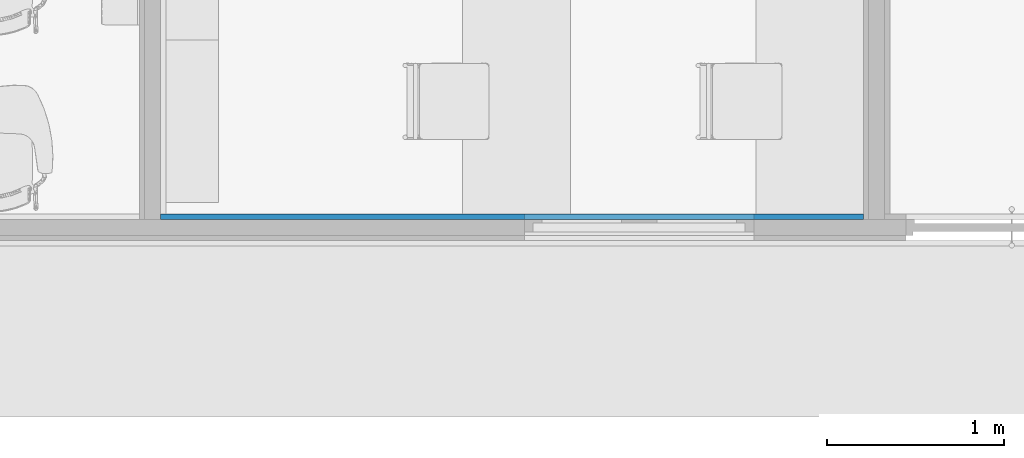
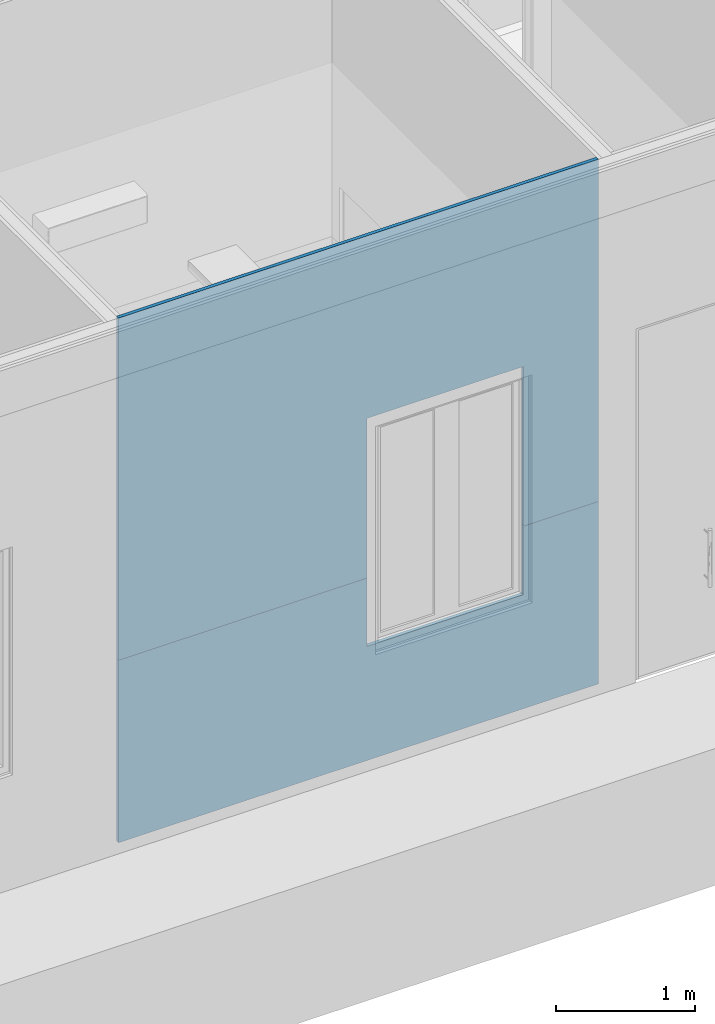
# One storey, part 4 of 155: 2 walls, 18 openings.
"""IFC2X3 building model written with IfcOpenShell, lengths in metres."""

from ifc_helpers import new_model, entity, si_unit, converted_unit, derived_unit, direction, frame, frame_2d, origin, place, context, subcontext, project, spatial, rectangle, extrude, material, layer, layer_set, layer_usage, type_object, element, save


model = new_model("IFC2X3")

# Units and contexts
model_context = context("Model", 3, precision=1e-05, world=origin(), true_north=direction((6.12303176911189e-17, 1.0)))
body_context = subcontext(model_context, "Body", "Model", "MODEL_VIEW")
ifc_project = project(units=[si_unit("LENGTHUNIT", "METRE"), si_unit("AREAUNIT", "SQUARE_METRE"), si_unit("VOLUMEUNIT", "CUBIC_METRE"), converted_unit("PLANEANGLEUNIT", "DEGREE", entity("IfcRatioMeasure", 0.0174532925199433), si_unit("PLANEANGLEUNIT", "RADIAN"), dimensions=[0, 0, 0, 0, 0, 0, 0]), si_unit("MASSUNIT", "GRAM", prefix="KILO"), derived_unit("MASSDENSITYUNIT", [(si_unit("MASSUNIT", "GRAM", prefix="KILO"), 1), (si_unit("LENGTHUNIT", "METRE"), -3)]), si_unit("TIMEUNIT", "SECOND"), si_unit("FREQUENCYUNIT", "HERTZ"), si_unit("THERMODYNAMICTEMPERATUREUNIT", "DEGREE_CELSIUS"), derived_unit("THERMALTRANSMITTANCEUNIT", [(si_unit("MASSUNIT", "GRAM", prefix="KILO"), 1), (si_unit("THERMODYNAMICTEMPERATUREUNIT", "KELVIN"), -1), (si_unit("TIMEUNIT", "SECOND"), -3)]), derived_unit("VOLUMETRICFLOWRATEUNIT", [(si_unit("LENGTHUNIT", "METRE"), 3), (si_unit("TIMEUNIT", "SECOND"), -1)]), si_unit("ELECTRICCURRENTUNIT", "AMPERE"), si_unit("ELECTRICVOLTAGEUNIT", "VOLT"), si_unit("POWERUNIT", "WATT"), si_unit("FORCEUNIT", "NEWTON", prefix="KILO"), si_unit("ILLUMINANCEUNIT", "LUX"), si_unit("LUMINOUSFLUXUNIT", "LUMEN"), si_unit("LUMINOUSINTENSITYUNIT", "CANDELA"), derived_unit("USERDEFINED", [(si_unit("MASSUNIT", "GRAM", prefix="KILO"), -1), (si_unit("LENGTHUNIT", "METRE"), -2), (si_unit("TIMEUNIT", "SECOND"), 3), (si_unit("LUMINOUSFLUXUNIT", "LUMEN"), 1)]), derived_unit("LINEARVELOCITYUNIT", [(si_unit("LENGTHUNIT", "METRE"), 1), (si_unit("TIMEUNIT", "SECOND"), -1)]), si_unit("PRESSUREUNIT", "PASCAL"), derived_unit("USERDEFINED", [(si_unit("LENGTHUNIT", "METRE"), -2), (si_unit("MASSUNIT", "GRAM", prefix="KILO"), 1), (si_unit("TIMEUNIT", "SECOND"), -2)])], contexts=[model_context])

# Site, building, storey
site_placement = place(None, frame((26.9889013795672, -17.5624287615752, 0.0)))
site = spatial("IfcSite", under=ifc_project, at=site_placement, Name="Default", CompositionType="ELEMENT")
building_placement = place(site_placement, origin())
building = spatial("IfcBuilding", under=site, at=building_placement, Name="C. C. L. Monsenhor Antônio Sampaio", CompositionType="ELEMENT")
storey_placement = place(building_placement, frame((0.0, 0.0, 1.19999999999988)))
storey = spatial("IfcBuildingStorey", under=building, at=storey_placement, Name="Nível 1.2", CompositionType="ELEMENT", Elevation=1.19999999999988)

# Wall, openings
ifc_material_1 = material(Name=".CERÂMICA 10x10 BRANCA")
ifc_layer_1 = layer(ifc_material_1, 0.0035)
ifc_material_2 = material(Name="Argamassa Colante")
ifc_layer_2 = layer(ifc_material_2, 0.02)
ifc_material_3 = material(Name="4")
ifc_layer_3 = layer(ifc_material_3, 0.0015)
ifc_material_4 = material(Name="3")
ifc_layer_4 = layer(ifc_material_4, 0.005)
ifc_layer_set_1 = layer_set([ifc_layer_1, ifc_layer_2, ifc_layer_3, ifc_layer_4], Name="Parede básica:ECeramica branca 10x10cm")
ifc_layer_usage_1 = layer_usage(ifc_layer_set_1, "AXIS2", "POSITIVE", -0.015)
wall_type_1 = type_object("IfcWallType", Name="Parede básica:ECeramica branca 10x10cm", PredefinedType="STANDARD", material=ifc_layer_set_1)
wall_1_placement = place(storey_placement, frame((-2.19055229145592, -39.3180663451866, 0.0), z_axis=(0.0, 0.0, 1.0), x_axis=(-1.0, 0.0, 0.0)))
wall_1 = element("IfcWallStandardCase", 1, at=wall_1_placement, inside=storey, type_object=wall_type_1, material=ifc_layer_usage_1, Name="Parede básica:ECeramica branca 10x10cm", ObjectType="Parede básica:ECeramica branca 10x10cm", context=body_context, shape_type="SweptSolid", body=[
    extrude(rectangle(XDim=3.97999999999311, YDim=0.0299999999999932, at=frame_2d((1.98999999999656, 3.20923843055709e-17), x_axis=(-1.0, 0.0))), origin(), (0.0, 0.0, 1.0), 1.6),
])
opening_1_placement = place(wall_1_placement, origin())
element("IfcOpeningElement", 2, at=opening_1_placement, cuts=wall_1, Name="Parede básica:ECeramica branca 10x10cm", ObjectType="Opening", context=body_context, shape_type="SweptSolid", body=[
    extrude(rectangle(XDim=2.0, YDim=1.30000000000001, at=frame_2d((1.66533453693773e-16, 0.0), x_axis=(1.0, 0.0))), frame((1.27, -1.41899999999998, 2.0), z_axis=(0.0, 1.0, 0.0), x_axis=(0.0, 0.0, 1.0)), (0.0, 0.0, 1.0), 3.048),
])
opening_2_placement = place(wall_1_placement, origin())
element("IfcOpeningElement", 3, at=opening_2_placement, cuts=wall_1, Name="Parede básica:ECeramica branca 10x10cm", ObjectType="Opening", context=body_context, shape_type="SweptSolid", body=[
    extrude(rectangle(XDim=3.09999999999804, YDim=1.4, at=frame_2d((0.0, -3.33066907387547e-16), x_axis=(0.0, 1.0))), frame((-0.939999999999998, -1.50899999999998, 1.54999999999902), z_axis=(0.0, 1.0, 0.0), x_axis=(-1.0, 0.0, 0.0)), (0.0, 0.0, 1.0), 3.04799999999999),
])
opening_3_placement = place(wall_1_placement, origin())
element("IfcOpeningElement", 4, at=opening_3_placement, cuts=wall_1, Name="Parede básica:ECeramica branca 10x10cm", ObjectType="Opening", context=body_context, shape_type="SweptSolid", body=[
    extrude(rectangle(XDim=2.0, YDim=1.30000000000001, at=frame_2d((0.0, -3.88578058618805e-16), x_axis=(0.0, 1.0))), frame((10.3499999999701, -1.41899999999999, 2.0), z_axis=(0.0, 1.0, 0.0), x_axis=(-1.0, 0.0, 0.0)), (0.0, 0.0, 1.0), 3.048),
])
opening_4_placement = place(wall_1_placement, origin())
element("IfcOpeningElement", 5, at=opening_4_placement, cuts=wall_1, Name="Parede básica:ECeramica branca 10x10cm", ObjectType="Opening", context=body_context, shape_type="SweptSolid", body=[
    extrude(rectangle(XDim=2.0, YDim=1.30000000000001, at=frame_2d((-4.9960036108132e-16, -3.88578058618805e-16), x_axis=(0.0, 1.0))), frame((7.96999999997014, -1.41899999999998, 2.0), z_axis=(0.0, 1.0, 0.0), x_axis=(-1.0, 0.0, 0.0)), (0.0, 0.0, 1.0), 3.048),
])
opening_5_placement = place(wall_1_placement, origin())
element("IfcOpeningElement", 6, at=opening_5_placement, cuts=wall_1, Name="Parede básica:ECeramica branca 10x10cm", ObjectType="Opening", context=body_context, shape_type="SweptSolid", body=[
    extrude(rectangle(XDim=2.0, YDim=1.30000000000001, at=frame_2d((0.0, -3.88578058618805e-16), x_axis=(0.0, 1.0))), frame((5.57999999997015, -1.41899999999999, 2.0), z_axis=(0.0, 1.0, 0.0), x_axis=(-1.0, 0.0, 0.0)), (0.0, 0.0, 1.0), 3.048),
])
opening_6_placement = place(wall_1_placement, origin())
element("IfcOpeningElement", 7, at=opening_6_placement, cuts=wall_1, Name="Parede básica:ECeramica branca 10x10cm", ObjectType="Opening", context=body_context, shape_type="SweptSolid", body=[
    extrude(rectangle(XDim=2.0, YDim=1.30000000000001, at=frame_2d((1.66533453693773e-16, -1.11022302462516e-16), x_axis=(1.0, 0.0))), frame((-3.2700000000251, -1.50899999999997, 2.0), z_axis=(0.0, 1.0, 0.0), x_axis=(0.0, 0.0, 1.0)), (0.0, 0.0, 1.0), 3.04800000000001),
])
opening_7_placement = place(wall_1_placement, origin())
element("IfcOpeningElement", 8, at=opening_7_placement, cuts=wall_1, Name="Parede básica:ECeramica branca 10x10cm", ObjectType="Opening", context=body_context, shape_type="SweptSolid", body=[
    extrude(rectangle(XDim=2.0, YDim=1.30000000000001, at=frame_2d((1.66533453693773e-16, -2.22044604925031e-16), x_axis=(1.0, 0.0))), frame((-7.52000000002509, -1.50899999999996, 2.0), z_axis=(0.0, 1.0, 0.0), x_axis=(0.0, 0.0, 1.0)), (0.0, 0.0, 1.0), 3.04800000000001),
])
opening_8_placement = place(wall_1_placement, origin())
element("IfcOpeningElement", 9, at=opening_8_placement, cuts=wall_1, Name="Parede básica:ECeramica branca 10x10cm", ObjectType="Opening", context=body_context, shape_type="SweptSolid", body=[
    extrude(rectangle(XDim=2.0, YDim=1.30000000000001, at=frame_2d((1.66533453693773e-16, 0.0), x_axis=(1.0, 0.0))), frame((-9.90000000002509, -1.50899999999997, 2.0), z_axis=(0.0, 1.0, 0.0), x_axis=(0.0, 0.0, 1.0)), (0.0, 0.0, 1.0), 3.048),
])
opening_9_placement = place(wall_1_placement, origin())
element("IfcOpeningElement", 10, at=opening_9_placement, cuts=wall_1, Name="Parede básica:ECeramica branca 10x10cm", ObjectType="Opening", context=body_context, shape_type="SweptSolid", body=[
    extrude(rectangle(XDim=2.0, YDim=1.30000000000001, at=frame_2d((1.66533453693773e-16, 0.0), x_axis=(1.0, 0.0))), frame((-12.2800000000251, -1.50899999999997, 2.0), z_axis=(0.0, 1.0, 0.0), x_axis=(0.0, 0.0, 1.0)), (0.0, 0.0, 1.0), 3.048),
])

ifc_material_5 = material(Name="Acabamento Branco")
ifc_layer_5 = layer(ifc_material_5, 0.0035)
ifc_material_6 = material(Name="Massa corrida")
ifc_layer_6 = layer(ifc_material_6, 0.02)
ifc_layer_7 = layer(ifc_material_3, 0.0015)
ifc_layer_8 = layer(ifc_material_4, 0.005)
ifc_layer_set_2 = layer_set([ifc_layer_5, ifc_layer_6, ifc_layer_7, ifc_layer_8], Name="Parede básica:EPintura Branca")
ifc_layer_usage_2 = layer_usage(ifc_layer_set_2, "AXIS2", "POSITIVE", -0.015)
wall_type_2 = type_object("IfcWallType", Name="Parede básica:EPintura Branca", PredefinedType="STANDARD", material=ifc_layer_set_2)
wall_2_placement = place(storey_placement, frame((-2.19055229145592, -39.3180663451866, 1.6), z_axis=(0.0, 0.0, 1.0), x_axis=(-1.0, 0.0, 0.0)))
wall_2 = element("IfcWallStandardCase", 11, at=wall_2_placement, inside=storey, type_object=wall_type_2, material=ifc_layer_usage_2, Name="Parede básica:EPintura Branca", ObjectType="Parede básica:EPintura Branca", context=body_context, shape_type="SweptSolid", body=[
    extrude(rectangle(XDim=3.97999999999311, YDim=0.0299999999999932, at=frame_2d((1.98999999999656, 3.20923843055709e-17), x_axis=(-1.0, 0.0))), origin(), (0.0, 0.0, 1.0), 3.00000000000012),
])
opening_10_placement = place(wall_2_placement, origin())
element("IfcOpeningElement", 12, at=opening_10_placement, cuts=wall_2, Name="Parede básica:EPintura Branca", ObjectType="Opening", context=body_context, shape_type="SweptSolid", body=[
    extrude(rectangle(XDim=2.0, YDim=1.30000000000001, at=frame_2d((1.66533453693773e-16, 0.0), x_axis=(1.0, 0.0))), frame((1.27, -1.41899999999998, 0.400000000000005), z_axis=(0.0, 1.0, 0.0), x_axis=(0.0, 0.0, 1.0)), (0.0, 0.0, 1.0), 3.048),
])
opening_11_placement = place(wall_2_placement, origin())
element("IfcOpeningElement", 13, at=opening_11_placement, cuts=wall_2, Name="Parede básica:EPintura Branca", ObjectType="Opening", context=body_context, shape_type="SweptSolid", body=[
    extrude(rectangle(XDim=3.09999999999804, YDim=1.4, at=frame_2d((0.0, -3.33066907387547e-16), x_axis=(0.0, 1.0))), frame((-0.939999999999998, -1.50899999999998, -0.0500000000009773), z_axis=(0.0, 1.0, 0.0), x_axis=(-1.0, 0.0, 0.0)), (0.0, 0.0, 1.0), 3.04799999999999),
])
opening_12_placement = place(wall_2_placement, origin())
element("IfcOpeningElement", 14, at=opening_12_placement, cuts=wall_2, Name="Parede básica:EPintura Branca", ObjectType="Opening", context=body_context, shape_type="SweptSolid", body=[
    extrude(rectangle(XDim=2.0, YDim=1.30000000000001, at=frame_2d((0.0, -3.88578058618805e-16), x_axis=(0.0, 1.0))), frame((10.3499999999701, -1.41899999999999, 0.400000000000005), z_axis=(0.0, 1.0, 0.0), x_axis=(-1.0, 0.0, 0.0)), (0.0, 0.0, 1.0), 3.048),
])
opening_13_placement = place(wall_2_placement, origin())
element("IfcOpeningElement", 15, at=opening_13_placement, cuts=wall_2, Name="Parede básica:EPintura Branca", ObjectType="Opening", context=body_context, shape_type="SweptSolid", body=[
    extrude(rectangle(XDim=2.0, YDim=1.30000000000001, at=frame_2d((-4.9960036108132e-16, -3.88578058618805e-16), x_axis=(0.0, 1.0))), frame((7.96999999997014, -1.41899999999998, 0.400000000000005), z_axis=(0.0, 1.0, 0.0), x_axis=(-1.0, 0.0, 0.0)), (0.0, 0.0, 1.0), 3.048),
])
opening_14_placement = place(wall_2_placement, origin())
element("IfcOpeningElement", 16, at=opening_14_placement, cuts=wall_2, Name="Parede básica:EPintura Branca", ObjectType="Opening", context=body_context, shape_type="SweptSolid", body=[
    extrude(rectangle(XDim=2.0, YDim=1.30000000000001, at=frame_2d((0.0, -3.88578058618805e-16), x_axis=(0.0, 1.0))), frame((5.57999999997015, -1.41899999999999, 0.400000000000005), z_axis=(0.0, 1.0, 0.0), x_axis=(-1.0, 0.0, 0.0)), (0.0, 0.0, 1.0), 3.048),
])
opening_15_placement = place(wall_2_placement, origin())
element("IfcOpeningElement", 17, at=opening_15_placement, cuts=wall_2, Name="Parede básica:EPintura Branca", ObjectType="Opening", context=body_context, shape_type="SweptSolid", body=[
    extrude(rectangle(XDim=2.0, YDim=1.30000000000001, at=frame_2d((1.66533453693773e-16, -1.11022302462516e-16), x_axis=(1.0, 0.0))), frame((-3.2700000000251, -1.50899999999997, 0.400000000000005), z_axis=(0.0, 1.0, 0.0), x_axis=(0.0, 0.0, 1.0)), (0.0, 0.0, 1.0), 3.04800000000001),
])
opening_16_placement = place(wall_2_placement, origin())
element("IfcOpeningElement", 18, at=opening_16_placement, cuts=wall_2, Name="Parede básica:EPintura Branca", ObjectType="Opening", context=body_context, shape_type="SweptSolid", body=[
    extrude(rectangle(XDim=2.0, YDim=1.30000000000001, at=frame_2d((1.66533453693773e-16, -2.22044604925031e-16), x_axis=(1.0, 0.0))), frame((-7.52000000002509, -1.50899999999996, 0.400000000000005), z_axis=(0.0, 1.0, 0.0), x_axis=(0.0, 0.0, 1.0)), (0.0, 0.0, 1.0), 3.04800000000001),
])
opening_17_placement = place(wall_2_placement, origin())
element("IfcOpeningElement", 19, at=opening_17_placement, cuts=wall_2, Name="Parede básica:EPintura Branca", ObjectType="Opening", context=body_context, shape_type="SweptSolid", body=[
    extrude(rectangle(XDim=2.0, YDim=1.30000000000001, at=frame_2d((1.66533453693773e-16, 0.0), x_axis=(1.0, 0.0))), frame((-9.90000000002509, -1.50899999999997, 0.400000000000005), z_axis=(0.0, 1.0, 0.0), x_axis=(0.0, 0.0, 1.0)), (0.0, 0.0, 1.0), 3.048),
])
opening_18_placement = place(wall_2_placement, origin())
element("IfcOpeningElement", 20, at=opening_18_placement, cuts=wall_2, Name="Parede básica:EPintura Branca", ObjectType="Opening", context=body_context, shape_type="SweptSolid", body=[
    extrude(rectangle(XDim=2.0, YDim=1.30000000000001, at=frame_2d((1.66533453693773e-16, 0.0), x_axis=(1.0, 0.0))), frame((-12.2800000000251, -1.50899999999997, 0.400000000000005), z_axis=(0.0, 1.0, 0.0), x_axis=(0.0, 0.0, 1.0)), (0.0, 0.0, 1.0), 3.048),
])

save(model, "model.ifc")
